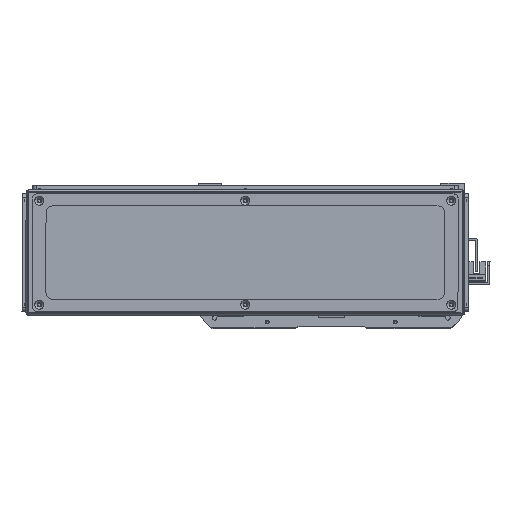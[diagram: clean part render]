
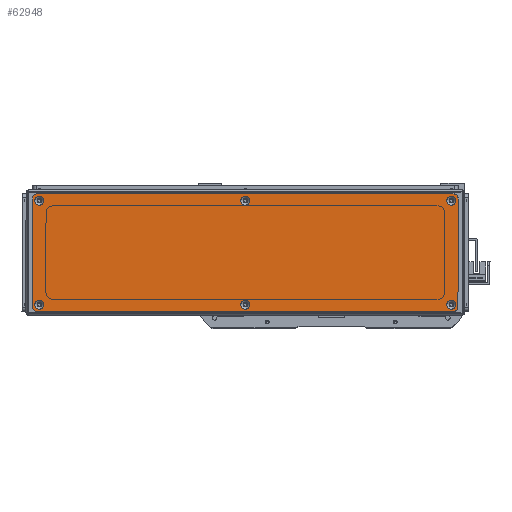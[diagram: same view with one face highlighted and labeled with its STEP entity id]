
A CAD part, front view. The second image highlights one B-rep face of the part: STEP entity #62948.
In plain terms, the highlighted planar face has unit normal (0, -1, 0).
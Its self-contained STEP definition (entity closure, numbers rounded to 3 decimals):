
#2428=FACE_BOUND('',#10436,.T.);
#2429=FACE_BOUND('',#10437,.T.);
#2430=FACE_BOUND('',#10438,.T.);
#2431=FACE_BOUND('',#10439,.T.);
#2432=FACE_BOUND('',#10440,.T.);
#2433=FACE_BOUND('',#10441,.T.);
#3724=CIRCLE('',#67734,3.45);
#3727=CIRCLE('',#67739,3.45);
#3730=CIRCLE('',#67744,3.45);
#3733=CIRCLE('',#67749,3.45);
#3736=CIRCLE('',#67754,3.45);
#3739=CIRCLE('',#67759,3.45);
#3742=CIRCLE('',#67764,3.);
#3744=CIRCLE('',#67767,3.);
#3745=CIRCLE('',#67768,3.);
#3746=CIRCLE('',#67769,3.);
#6846=FACE_OUTER_BOUND('',#10435,.T.);
#10435=EDGE_LOOP('',(#56852,#56853,#56854,#56855,#56856,#56857,#56858,#56859));
#10436=EDGE_LOOP('',(#56860));
#10437=EDGE_LOOP('',(#56861));
#10438=EDGE_LOOP('',(#56862));
#10439=EDGE_LOOP('',(#56863));
#10440=EDGE_LOOP('',(#56864));
#10441=EDGE_LOOP('',(#56865));
#17639=LINE('',#103817,#24888);
#17640=LINE('',#103821,#24889);
#17641=LINE('',#103825,#24890);
#17642=LINE('',#103828,#24891);
#24888=VECTOR('',#83679,10.);
#24889=VECTOR('',#83682,10.);
#24890=VECTOR('',#83685,10.);
#24891=VECTOR('',#83688,10.);
#30797=VERTEX_POINT('',#103747);
#30800=VERTEX_POINT('',#103757);
#30803=VERTEX_POINT('',#103767);
#30806=VERTEX_POINT('',#103777);
#30809=VERTEX_POINT('',#103787);
#30812=VERTEX_POINT('',#103797);
#30815=VERTEX_POINT('',#103807);
#30816=VERTEX_POINT('',#103808);
#30819=VERTEX_POINT('',#103816);
#30820=VERTEX_POINT('',#103818);
#30821=VERTEX_POINT('',#103820);
#30822=VERTEX_POINT('',#103822);
#30823=VERTEX_POINT('',#103824);
#30824=VERTEX_POINT('',#103826);
#39506=EDGE_CURVE('',#30797,#30797,#3724,.T.);
#39511=EDGE_CURVE('',#30800,#30800,#3727,.T.);
#39516=EDGE_CURVE('',#30803,#30803,#3730,.T.);
#39521=EDGE_CURVE('',#30806,#30806,#3733,.T.);
#39526=EDGE_CURVE('',#30809,#30809,#3736,.T.);
#39531=EDGE_CURVE('',#30812,#30812,#3739,.T.);
#39536=EDGE_CURVE('',#30815,#30816,#3742,.T.);
#39540=EDGE_CURVE('',#30815,#30819,#17639,.T.);
#39541=EDGE_CURVE('',#30820,#30819,#3744,.T.);
#39542=EDGE_CURVE('',#30820,#30821,#17640,.T.);
#39543=EDGE_CURVE('',#30822,#30821,#3745,.T.);
#39544=EDGE_CURVE('',#30822,#30823,#17641,.T.);
#39545=EDGE_CURVE('',#30824,#30823,#3746,.T.);
#39546=EDGE_CURVE('',#30824,#30816,#17642,.T.);
#56852=ORIENTED_EDGE('',*,*,#39536,.F.);
#56853=ORIENTED_EDGE('',*,*,#39540,.T.);
#56854=ORIENTED_EDGE('',*,*,#39541,.F.);
#56855=ORIENTED_EDGE('',*,*,#39542,.T.);
#56856=ORIENTED_EDGE('',*,*,#39543,.F.);
#56857=ORIENTED_EDGE('',*,*,#39544,.T.);
#56858=ORIENTED_EDGE('',*,*,#39545,.F.);
#56859=ORIENTED_EDGE('',*,*,#39546,.T.);
#56860=ORIENTED_EDGE('',*,*,#39506,.T.);
#56861=ORIENTED_EDGE('',*,*,#39511,.T.);
#56862=ORIENTED_EDGE('',*,*,#39516,.T.);
#56863=ORIENTED_EDGE('',*,*,#39521,.T.);
#56864=ORIENTED_EDGE('',*,*,#39526,.T.);
#56865=ORIENTED_EDGE('',*,*,#39531,.T.);
#59861=PLANE('',#67766);
#62948=ADVANCED_FACE('',(#6846,#2428,#2429,#2430,#2431,#2432,#2433),#59861,
 .T.);
#67734=AXIS2_PLACEMENT_3D('',#103748,#83599,#83600);
#67739=AXIS2_PLACEMENT_3D('',#103758,#83611,#83612);
#67744=AXIS2_PLACEMENT_3D('',#103768,#83623,#83624);
#67749=AXIS2_PLACEMENT_3D('',#103778,#83635,#83636);
#67754=AXIS2_PLACEMENT_3D('',#103788,#83647,#83648);
#67759=AXIS2_PLACEMENT_3D('',#103798,#83659,#83660);
#67764=AXIS2_PLACEMENT_3D('',#103809,#83671,#83672);
#67766=AXIS2_PLACEMENT_3D('',#103815,#83677,#83678);
#67767=AXIS2_PLACEMENT_3D('',#103819,#83680,#83681);
#67768=AXIS2_PLACEMENT_3D('',#103823,#83683,#83684);
#67769=AXIS2_PLACEMENT_3D('',#103827,#83686,#83687);
#83599=DIRECTION('center_axis',(0.,1.,0.));
#83600=DIRECTION('ref_axis',(1.,0.,0.));
#83611=DIRECTION('center_axis',(0.,1.,0.));
#83612=DIRECTION('ref_axis',(1.,0.,0.));
#83623=DIRECTION('center_axis',(0.,1.,0.));
#83624=DIRECTION('ref_axis',(1.,0.,0.));
#83635=DIRECTION('center_axis',(0.,1.,0.));
#83636=DIRECTION('ref_axis',(1.,0.,0.));
#83647=DIRECTION('center_axis',(0.,1.,0.));
#83648=DIRECTION('ref_axis',(1.,0.,0.));
#83659=DIRECTION('center_axis',(0.,1.,0.));
#83660=DIRECTION('ref_axis',(1.,0.,0.));
#83671=DIRECTION('center_axis',(0.,1.,0.));
#83672=DIRECTION('ref_axis',(-0.707,0.,0.707));
#83677=DIRECTION('center_axis',(0.,-1.,0.));
#83678=DIRECTION('ref_axis',(0.,0.,-1.));
#83679=DIRECTION('',(0.,0.,-1.));
#83680=DIRECTION('center_axis',(0.,1.,0.));
#83681=DIRECTION('ref_axis',(-0.707,0.,-0.707));
#83682=DIRECTION('',(1.,0.,0.));
#83683=DIRECTION('center_axis',(0.,1.,0.));
#83684=DIRECTION('ref_axis',(0.707,0.,-0.707));
#83685=DIRECTION('',(0.,0.,1.));
#83686=DIRECTION('center_axis',(0.,1.,0.));
#83687=DIRECTION('ref_axis',(0.707,0.,0.707));
#83688=DIRECTION('',(-1.,0.,0.));
#103747=CARTESIAN_POINT('',(151.05,-1.5,39.));
#103748=CARTESIAN_POINT('Origin',(154.5,-1.5,39.));
#103757=CARTESIAN_POINT('',(-3.45,-1.5,39.));
#103758=CARTESIAN_POINT('Origin',(0.,-1.5,39.));
#103767=CARTESIAN_POINT('',(-157.95,-1.5,39.));
#103768=CARTESIAN_POINT('Origin',(-154.5,-1.5,39.));
#103777=CARTESIAN_POINT('',(-157.95,-1.5,-39.));
#103778=CARTESIAN_POINT('Origin',(-154.5,-1.5,-39.));
#103787=CARTESIAN_POINT('',(-3.45,-1.5,-39.));
#103788=CARTESIAN_POINT('Origin',(0.,-1.5,-39.));
#103797=CARTESIAN_POINT('',(151.05,-1.5,-39.));
#103798=CARTESIAN_POINT('Origin',(154.5,-1.5,-39.));
#103807=CARTESIAN_POINT('',(-159.5,-1.5,41.));
#103808=CARTESIAN_POINT('',(-156.5,-1.5,44.));
#103809=CARTESIAN_POINT('Origin',(-156.5,-1.5,41.));
#103815=CARTESIAN_POINT('Origin',(0.,-1.5,0.));
#103816=CARTESIAN_POINT('',(-159.5,-1.5,-41.));
#103817=CARTESIAN_POINT('',(-159.5,-1.5,44.));
#103818=CARTESIAN_POINT('',(-156.5,-1.5,-44.));
#103819=CARTESIAN_POINT('Origin',(-156.5,-1.5,-41.));
#103820=CARTESIAN_POINT('',(156.5,-1.5,-44.));
#103821=CARTESIAN_POINT('',(-159.5,-1.5,-44.));
#103822=CARTESIAN_POINT('',(159.5,-1.5,-41.));
#103823=CARTESIAN_POINT('Origin',(156.5,-1.5,-41.));
#103824=CARTESIAN_POINT('',(159.5,-1.5,41.));
#103825=CARTESIAN_POINT('',(159.5,-1.5,-44.));
#103826=CARTESIAN_POINT('',(156.5,-1.5,44.));
#103827=CARTESIAN_POINT('Origin',(156.5,-1.5,41.));
#103828=CARTESIAN_POINT('',(159.5,-1.5,44.));
